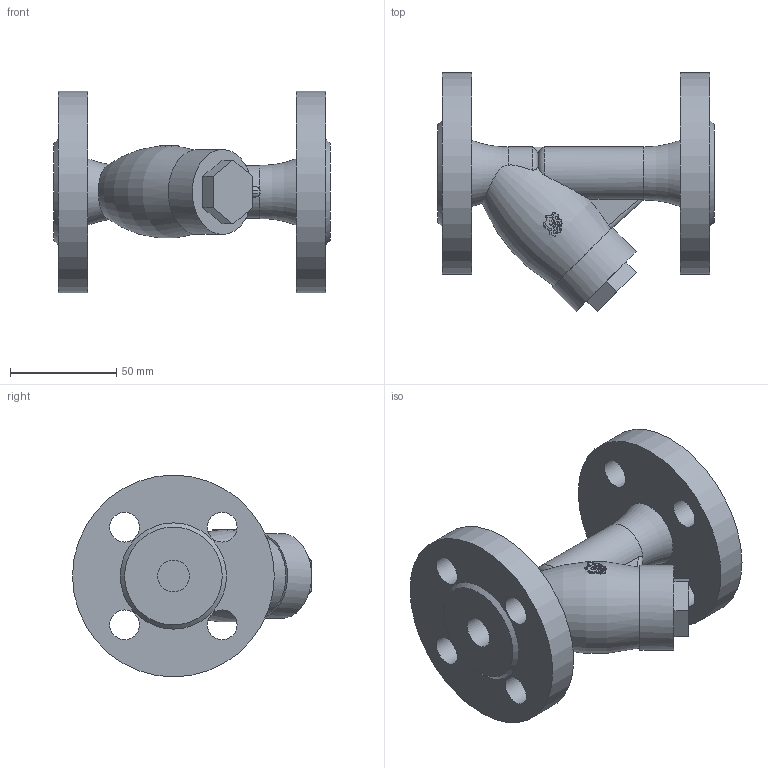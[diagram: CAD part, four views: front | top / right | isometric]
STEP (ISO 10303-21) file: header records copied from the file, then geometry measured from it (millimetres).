
FILE_DESCRIPTION(('STEP AP203'), '1');
FILE_NAME('3D_600_601-015-16_1', '', ('UNSPECIFIED'), ('UNSPECIFIED'), 'C3D Converter', 'C3D Toolkit', '');
FILE_SCHEMA(('CONFIG_CONTROL_DESIGN'));
Length unit declared in the file: millimetre
Bounding box: 130 x 112.5 x 95 mm (x, y, z)
Volume: 314716.7 mm3; surface area: 56038.8 mm2
Topology: 1 solids, 1 shells, 876 faces, 2578 edges, 1725 vertices
Faces by surface type: plane 844, cylinder 19, torus 11, cone 2
Full cylindrical faces by diameter (mm): 14 x8, 15 x2, 40 x1, 95 x2
Entity records: 38730 total; most frequent: CARTESIAN_POINT 9999, ORIENTED_EDGE 5120, DIRECTION 3522, EDGE_CURVE 2560, VERTEX_POINT 1724, LINE 1654, VECTOR 1654, AXIS2_PLACEMENT_3D 934
